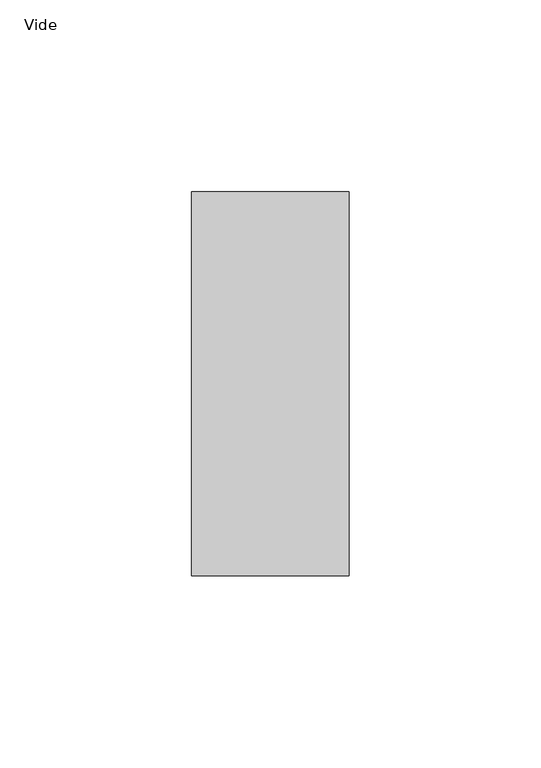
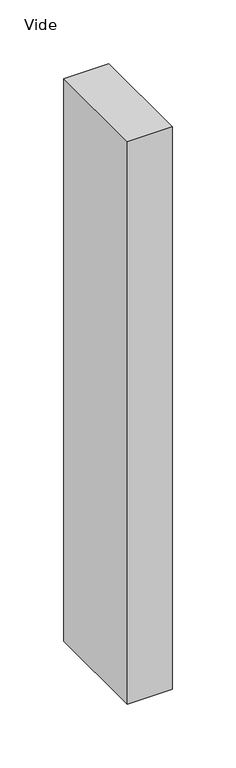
"""IFC4 building model written with IfcOpenShell, lengths in millimetres: plate geometry, Panneau système vide : Vide."""

from ifc_helpers import new_model, si_unit, origin, origin_with_axes, place, context, project, spatial, polyline, outline, extrude, source, transform, mapped, element, save


def vide_01bff3c3(model_context):
    return source(origin(), model_context, "Body", "SweptSolid", [
        extrude(outline(polyline([(20.4999998, 50.0), (-20.4999998, 50.0), (-20.4999998, 150.0), (20.4999998, 150.0), (20.4999998, 50.0)])), origin_with_axes(), (0.0, 0.0, 1.0), 539.8914595),
    ])


if __name__ == "__main__":
    model = new_model("IFC4")
    model_context = context("Model", 3, world=origin())
    ifc_project = project(units=[si_unit("LENGTHUNIT", "METRE", prefix="MILLI")], contexts=[model_context])
    site = spatial("IfcSite", under=ifc_project)
    building = spatial("IfcBuilding", under=site)
    placement = place(None, origin())
    vide_shape = vide_01bff3c3(model_context)
    element("IfcPlate", 1, ObjectType="Panneau système vide : Vide", at=placement, inside=building, context=model_context, shape_type="MappedRepresentation", body=[
        mapped(vide_shape, transform((0.0, 0.0, 0.0), x_axis=(1.0, 0.0, 0.0), y_axis=(0.0, 1.0, 0.0), z_axis=(0.0, 0.0, 1.0))),
    ])
    save(model, "model.ifc")
